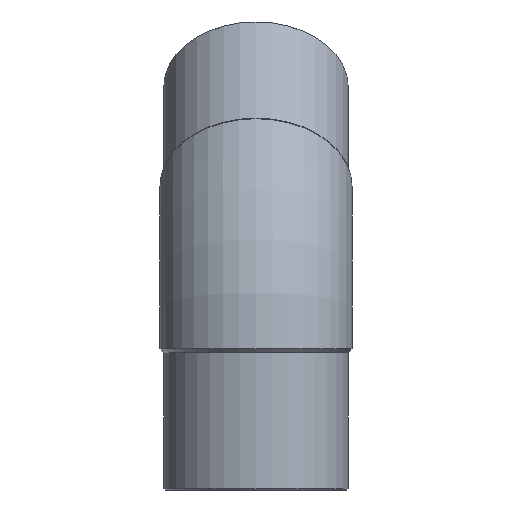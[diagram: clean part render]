
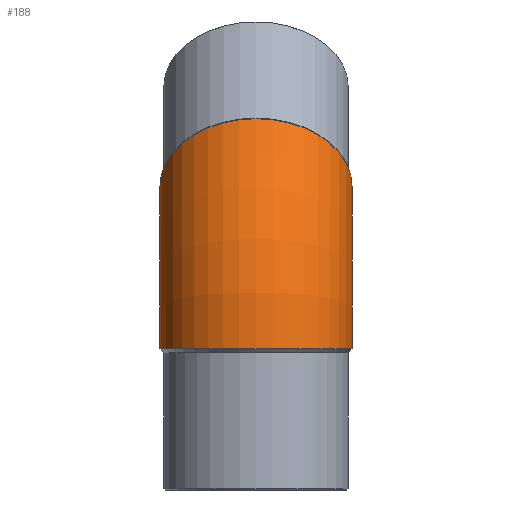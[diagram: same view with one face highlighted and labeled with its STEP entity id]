
A CAD part, left-side view. The second image highlights one B-rep face of the part: STEP entity #188.
In plain terms, the highlighted toroidal (fillet/blend) face has major radius 154.51 mm and minor radius 65 mm.
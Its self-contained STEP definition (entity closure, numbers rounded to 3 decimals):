
#20=TOROIDAL_SURFACE('',#225,154.51,65.);
#53=ORIENTED_EDGE('',*,*,#87,.T.);
#54=ORIENTED_EDGE('',*,*,#86,.F.);
#86=EDGE_CURVE('',#104,#104,#118,.F.);
#87=EDGE_CURVE('',#105,#105,#119,.F.);
#104=VERTEX_POINT('',#347);
#105=VERTEX_POINT('',#350);
#118=CIRCLE('',#224,65.);
#119=CIRCLE('',#226,65.);
#136=EDGE_LOOP('',(#53));
#137=EDGE_LOOP('',(#54));
#163=FACE_BOUND('',#136,.T.);
#164=FACE_BOUND('',#137,.T.);
#188=ADVANCED_FACE('',(#163,#164),#20,.T.);
#224=AXIS2_PLACEMENT_3D('',#346,#270,#271);
#225=AXIS2_PLACEMENT_3D('',#348,#272,#273);
#226=AXIS2_PLACEMENT_3D('',#349,#274,#275);
#270=DIRECTION('',(-0.707,0.,-0.707));
#271=DIRECTION('',(0.707,0.,-0.707));
#272=DIRECTION('',(0.,1.,0.));
#273=DIRECTION('',(0.,0.,1.));
#274=DIRECTION('',(0.,0.,-1.));
#275=DIRECTION('',(1.,0.,0.));
#346=CARTESIAN_POINT('',(45.255,0.,45.255));
#347=CARTESIAN_POINT('',(91.217,0.,-0.707));
#348=CARTESIAN_POINT('',(154.51,0.,-64.));
#349=CARTESIAN_POINT('',(0.,0.,-64.));
#350=CARTESIAN_POINT('',(65.,0.,-64.));
